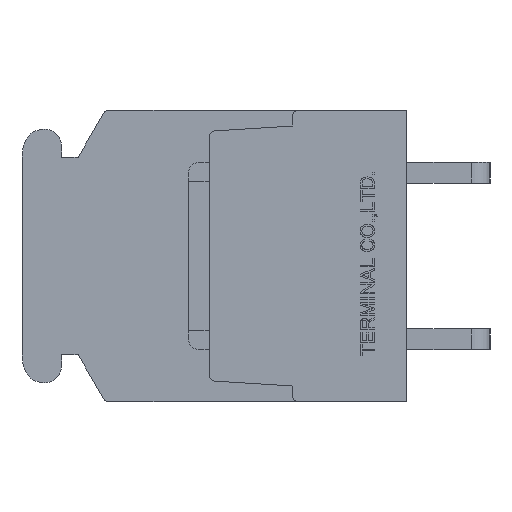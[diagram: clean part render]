
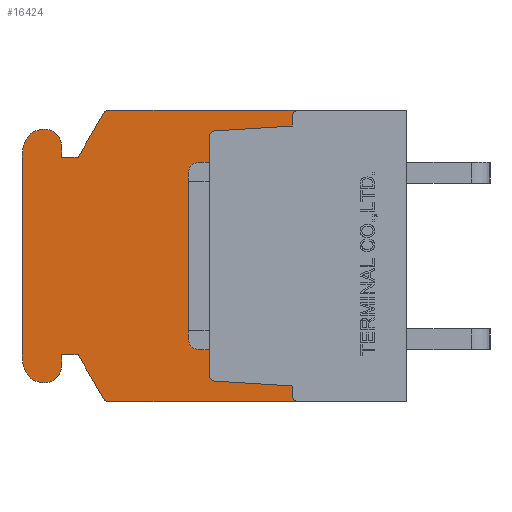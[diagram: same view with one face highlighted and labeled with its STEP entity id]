
A CAD part, left-side view. The second image highlights one B-rep face of the part: STEP entity #16424.
In plain terms, the highlighted planar face has unit normal (-1, 0, 0).
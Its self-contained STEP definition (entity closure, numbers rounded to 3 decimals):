
#851=CIRCLE('',#17600,0.3);
#852=CIRCLE('',#17601,0.3);
#853=CIRCLE('',#17602,0.3);
#854=CIRCLE('',#17603,0.3);
#855=CIRCLE('',#17604,0.3);
#856=CIRCLE('',#17605,0.8);
#857=CIRCLE('',#17606,1.);
#858=CIRCLE('',#17607,2.);
#859=CIRCLE('',#17608,2.);
#860=CIRCLE('',#17609,1.);
#861=CIRCLE('',#17610,0.8);
#862=CIRCLE('',#17611,0.3);
#1681=VERTEX_POINT('',#23892);
#1682=VERTEX_POINT('',#23893);
#1683=VERTEX_POINT('',#23895);
#1684=VERTEX_POINT('',#23897);
#1685=VERTEX_POINT('',#23899);
#1686=VERTEX_POINT('',#23901);
#1687=VERTEX_POINT('',#23903);
#1688=VERTEX_POINT('',#23905);
#1689=VERTEX_POINT('',#23907);
#1690=VERTEX_POINT('',#23909);
#1691=VERTEX_POINT('',#23911);
#1692=VERTEX_POINT('',#23913);
#1693=VERTEX_POINT('',#23915);
#1694=VERTEX_POINT('',#23917);
#1695=VERTEX_POINT('',#23919);
#1696=VERTEX_POINT('',#23921);
#1697=VERTEX_POINT('',#23923);
#1698=VERTEX_POINT('',#23925);
#1699=VERTEX_POINT('',#23927);
#1700=VERTEX_POINT('',#23929);
#1701=VERTEX_POINT('',#23931);
#1702=VERTEX_POINT('',#23933);
#1703=VERTEX_POINT('',#23935);
#1704=VERTEX_POINT('',#23937);
#1705=VERTEX_POINT('',#23939);
#1706=VERTEX_POINT('',#23941);
#1707=VERTEX_POINT('',#23943);
#1708=VERTEX_POINT('',#23945);
#3392=VECTOR('',#19837,1.);
#3393=VECTOR('',#19838,1.);
#3394=VECTOR('',#19841,1.);
#3395=VECTOR('',#19844,1.);
#3396=VECTOR('',#19845,1.);
#3397=VECTOR('',#19848,1.);
#3398=VECTOR('',#19851,1.);
#3399=VECTOR('',#19852,1.);
#3400=VECTOR('',#19853,1.);
#3401=VECTOR('',#19856,1.);
#3402=VECTOR('',#19861,1.);
#3403=VECTOR('',#19866,1.);
#3404=VECTOR('',#19869,1.);
#3405=VECTOR('',#19870,1.);
#3406=VECTOR('',#19871,1.);
#3407=VECTOR('',#19874,1.);
#5274=LINE('',#23894,#3392);
#5275=LINE('',#23896,#3393);
#5276=LINE('',#23900,#3394);
#5277=LINE('',#23904,#3395);
#5278=LINE('',#23906,#3396);
#5279=LINE('',#23910,#3397);
#5280=LINE('',#23914,#3398);
#5281=LINE('',#23916,#3399);
#5282=LINE('',#23918,#3400);
#5283=LINE('',#23922,#3401);
#5284=LINE('',#23928,#3402);
#5285=LINE('',#23934,#3403);
#5286=LINE('',#23938,#3404);
#5287=LINE('',#23940,#3405);
#5288=LINE('',#23942,#3406);
#5289=LINE('',#23946,#3407);
#7475=EDGE_CURVE('',#1681,#1682,#851,.T.);
#7476=EDGE_CURVE('',#1683,#1681,#5274,.T.);
#7477=EDGE_CURVE('',#1684,#1683,#5275,.T.);
#7478=EDGE_CURVE('',#1685,#1684,#852,.T.);
#7479=EDGE_CURVE('',#1686,#1685,#5276,.T.);
#7480=EDGE_CURVE('',#1687,#1686,#853,.T.);
#7481=EDGE_CURVE('',#1688,#1687,#5277,.T.);
#7482=EDGE_CURVE('',#1689,#1688,#5278,.T.);
#7483=EDGE_CURVE('',#1690,#1689,#854,.T.);
#7484=EDGE_CURVE('',#1691,#1690,#5279,.T.);
#7485=EDGE_CURVE('',#1692,#1691,#855,.T.);
#7486=EDGE_CURVE('',#1693,#1692,#5280,.T.);
#7487=EDGE_CURVE('',#1694,#1693,#5281,.T.);
#7488=EDGE_CURVE('',#1695,#1694,#5282,.T.);
#7489=EDGE_CURVE('',#1696,#1695,#856,.T.);
#7490=EDGE_CURVE('',#1697,#1696,#5283,.T.);
#7491=EDGE_CURVE('',#1698,#1697,#857,.T.);
#7492=EDGE_CURVE('',#1699,#1698,#858,.T.);
#7493=EDGE_CURVE('',#1700,#1699,#5284,.T.);
#7494=EDGE_CURVE('',#1701,#1700,#859,.T.);
#7495=EDGE_CURVE('',#1702,#1701,#860,.T.);
#7496=EDGE_CURVE('',#1703,#1702,#5285,.T.);
#7497=EDGE_CURVE('',#1704,#1703,#861,.T.);
#7498=EDGE_CURVE('',#1705,#1704,#5286,.T.);
#7499=EDGE_CURVE('',#1706,#1705,#5287,.T.);
#7500=EDGE_CURVE('',#1707,#1706,#5288,.T.);
#7501=EDGE_CURVE('',#1708,#1707,#862,.T.);
#7502=EDGE_CURVE('',#1682,#1708,#5289,.T.);
#10929=ORIENTED_EDGE('',*,*,#7475,.F.);
#10930=ORIENTED_EDGE('',*,*,#7476,.F.);
#10931=ORIENTED_EDGE('',*,*,#7477,.F.);
#10932=ORIENTED_EDGE('',*,*,#7478,.F.);
#10933=ORIENTED_EDGE('',*,*,#7479,.F.);
#10934=ORIENTED_EDGE('',*,*,#7480,.F.);
#10935=ORIENTED_EDGE('',*,*,#7481,.F.);
#10936=ORIENTED_EDGE('',*,*,#7482,.F.);
#10937=ORIENTED_EDGE('',*,*,#7483,.F.);
#10938=ORIENTED_EDGE('',*,*,#7484,.F.);
#10939=ORIENTED_EDGE('',*,*,#7485,.F.);
#10940=ORIENTED_EDGE('',*,*,#7486,.F.);
#10941=ORIENTED_EDGE('',*,*,#7487,.F.);
#10942=ORIENTED_EDGE('',*,*,#7488,.F.);
#10943=ORIENTED_EDGE('',*,*,#7489,.F.);
#10944=ORIENTED_EDGE('',*,*,#7490,.F.);
#10945=ORIENTED_EDGE('',*,*,#7491,.F.);
#10946=ORIENTED_EDGE('',*,*,#7492,.F.);
#10947=ORIENTED_EDGE('',*,*,#7493,.F.);
#10948=ORIENTED_EDGE('',*,*,#7494,.F.);
#10949=ORIENTED_EDGE('',*,*,#7495,.F.);
#10950=ORIENTED_EDGE('',*,*,#7496,.F.);
#10951=ORIENTED_EDGE('',*,*,#7497,.F.);
#10952=ORIENTED_EDGE('',*,*,#7498,.F.);
#10953=ORIENTED_EDGE('',*,*,#7499,.F.);
#10954=ORIENTED_EDGE('',*,*,#7500,.F.);
#10955=ORIENTED_EDGE('',*,*,#7501,.F.);
#10956=ORIENTED_EDGE('',*,*,#7502,.F.);
#14406=EDGE_LOOP('',(#10929,#10930,#10931,#10932,#10933,#10934,#10935,#10936,
#10937,#10938,#10939,#10940,#10941,#10942,#10943,#10944,#10945,#10946,#10947,
#10948,#10949,#10950,#10951,#10952,#10953,#10954,#10955,#10956));
#15436=FACE_BOUND('',#14406,.T.);
#16424=ADVANCED_FACE('',(#15436),#27997,.F.);
#17599=AXIS2_PLACEMENT_3D('',#23890,#19834,$);
#17600=AXIS2_PLACEMENT_3D('',#23891,#19835,#19836);
#17601=AXIS2_PLACEMENT_3D('',#23898,#19839,#19840);
#17602=AXIS2_PLACEMENT_3D('',#23902,#19842,#19843);
#17603=AXIS2_PLACEMENT_3D('',#23908,#19846,#19847);
#17604=AXIS2_PLACEMENT_3D('',#23912,#19849,#19850);
#17605=AXIS2_PLACEMENT_3D('',#23920,#19854,#19855);
#17606=AXIS2_PLACEMENT_3D('',#23924,#19857,#19858);
#17607=AXIS2_PLACEMENT_3D('',#23926,#19859,#19860);
#17608=AXIS2_PLACEMENT_3D('',#23930,#19862,#19863);
#17609=AXIS2_PLACEMENT_3D('',#23932,#19864,#19865);
#17610=AXIS2_PLACEMENT_3D('',#23936,#19867,#19868);
#17611=AXIS2_PLACEMENT_3D('',#23944,#19872,#19873);
#19834=DIRECTION('',(1.,0.,0.));
#19835=DIRECTION('',(-1.,0.,0.));
#19836=DIRECTION('',(0.,0.,-0.3));
#19837=DIRECTION('',(0.,0.,-1.));
#19838=DIRECTION('',(0.,-0.998,-0.062));
#19839=DIRECTION('',(-1.,0.,0.));
#19840=DIRECTION('',(0.,0.,-0.3));
#19841=DIRECTION('',(0.,0.,-1.));
#19842=DIRECTION('',(-1.,0.,0.));
#19843=DIRECTION('',(0.,0.,-0.3));
#19844=DIRECTION('',(0.,0.998,-0.062));
#19845=DIRECTION('',(0.,0.,-1.));
#19846=DIRECTION('',(-1.,0.,0.));
#19847=DIRECTION('',(0.,0.,-0.3));
#19848=DIRECTION('',(0.,-1.,0.));
#19849=DIRECTION('',(1.,0.,0.));
#19850=DIRECTION('',(0.,0.,-0.3));
#19851=DIRECTION('',(0.,-0.5,0.866));
#19852=DIRECTION('',(0.,-1.,0.));
#19853=DIRECTION('',(0.,0.,-1.));
#19854=DIRECTION('',(1.,0.,0.));
#19855=DIRECTION('',(0.,0.,-0.8));
#19856=DIRECTION('',(0.,-1.,0.));
#19857=DIRECTION('',(1.,0.,0.));
#19858=DIRECTION('',(0.,0.,-1.));
#19859=DIRECTION('',(1.,0.,0.));
#19860=DIRECTION('',(0.,0.,-2.));
#19861=DIRECTION('',(0.,0.,1.));
#19862=DIRECTION('',(1.,0.,0.));
#19863=DIRECTION('',(0.,0.,-2.));
#19864=DIRECTION('',(1.,0.,0.));
#19865=DIRECTION('',(0.,0.,-1.));
#19866=DIRECTION('',(0.,1.,0.));
#19867=DIRECTION('',(1.,0.,0.));
#19868=DIRECTION('',(0.,0.,-0.8));
#19869=DIRECTION('',(0.,0.,-1.));
#19870=DIRECTION('',(0.,1.,0.));
#19871=DIRECTION('',(0.,0.5,0.866));
#19872=DIRECTION('',(1.,0.,0.));
#19873=DIRECTION('',(0.,0.,-0.3));
#19874=DIRECTION('',(0.,1.,0.));
#23890=CARTESIAN_POINT('',(8.15,9.311,0.));
#23891=CARTESIAN_POINT('',(8.15,5.2,-6.7));
#23892=CARTESIAN_POINT('',(8.15,5.5,-6.7));
#23893=CARTESIAN_POINT('',(8.15,5.2,-7.));
#23894=CARTESIAN_POINT('',(8.15,5.5,-6.7));
#23895=CARTESIAN_POINT('',(8.15,5.5,-6.25));
#23896=CARTESIAN_POINT('',(8.15,5.5,-6.25));
#23897=CARTESIAN_POINT('',(8.15,9.219,-6.018));
#23898=CARTESIAN_POINT('',(8.15,9.2,-5.718));
#23899=CARTESIAN_POINT('',(8.15,9.5,-5.718));
#23900=CARTESIAN_POINT('',(8.15,9.5,-5.718));
#23901=CARTESIAN_POINT('',(8.15,9.5,5.718));
#23902=CARTESIAN_POINT('',(8.15,9.2,5.718));
#23903=CARTESIAN_POINT('',(8.15,9.219,6.018));
#23904=CARTESIAN_POINT('',(8.15,9.219,6.018));
#23905=CARTESIAN_POINT('',(8.15,5.5,6.25));
#23906=CARTESIAN_POINT('',(8.15,5.5,6.25));
#23907=CARTESIAN_POINT('',(8.15,5.5,6.7));
#23908=CARTESIAN_POINT('',(8.15,5.2,6.7));
#23909=CARTESIAN_POINT('',(8.15,5.2,7.));
#23910=CARTESIAN_POINT('',(8.15,14.327,7.));
#23911=CARTESIAN_POINT('',(8.15,14.327,7.));
#23912=CARTESIAN_POINT('',(8.15,14.327,6.7));
#23913=CARTESIAN_POINT('',(8.15,14.587,6.85));
#23914=CARTESIAN_POINT('',(8.15,15.8,4.75));
#23915=CARTESIAN_POINT('',(8.15,15.8,4.75));
#23916=CARTESIAN_POINT('',(8.15,16.6,4.75));
#23917=CARTESIAN_POINT('',(8.15,16.6,4.75));
#23918=CARTESIAN_POINT('',(8.15,16.6,5.3));
#23919=CARTESIAN_POINT('',(8.15,16.6,5.3));
#23920=CARTESIAN_POINT('',(8.15,17.4,5.3));
#23921=CARTESIAN_POINT('',(8.15,17.4,6.1));
#23922=CARTESIAN_POINT('',(8.15,17.437,6.1));
#23923=CARTESIAN_POINT('',(8.15,17.437,6.1));
#23924=CARTESIAN_POINT('',(8.15,17.437,5.1));
#23925=CARTESIAN_POINT('',(8.15,18.373,5.45));
#23926=CARTESIAN_POINT('',(8.15,16.5,4.75));
#23927=CARTESIAN_POINT('',(8.15,18.5,4.75));
#23928=CARTESIAN_POINT('',(8.15,18.5,-4.75));
#23929=CARTESIAN_POINT('',(8.15,18.5,-4.75));
#23930=CARTESIAN_POINT('',(8.15,16.5,-4.75));
#23931=CARTESIAN_POINT('',(8.15,18.373,-5.45));
#23932=CARTESIAN_POINT('',(8.15,17.437,-5.1));
#23933=CARTESIAN_POINT('',(8.15,17.437,-6.1));
#23934=CARTESIAN_POINT('',(8.15,17.4,-6.1));
#23935=CARTESIAN_POINT('',(8.15,17.4,-6.1));
#23936=CARTESIAN_POINT('',(8.15,17.4,-5.3));
#23937=CARTESIAN_POINT('',(8.15,16.6,-5.3));
#23938=CARTESIAN_POINT('',(8.15,16.6,-4.75));
#23939=CARTESIAN_POINT('',(8.15,16.6,-4.75));
#23940=CARTESIAN_POINT('',(8.15,15.8,-4.75));
#23941=CARTESIAN_POINT('',(8.15,15.8,-4.75));
#23942=CARTESIAN_POINT('',(8.15,14.587,-6.85));
#23943=CARTESIAN_POINT('',(8.15,14.587,-6.85));
#23944=CARTESIAN_POINT('',(8.15,14.327,-6.7));
#23945=CARTESIAN_POINT('',(8.15,14.327,-7.));
#23946=CARTESIAN_POINT('',(8.15,0.,-7.));
#27997=PLANE('',#17599);
